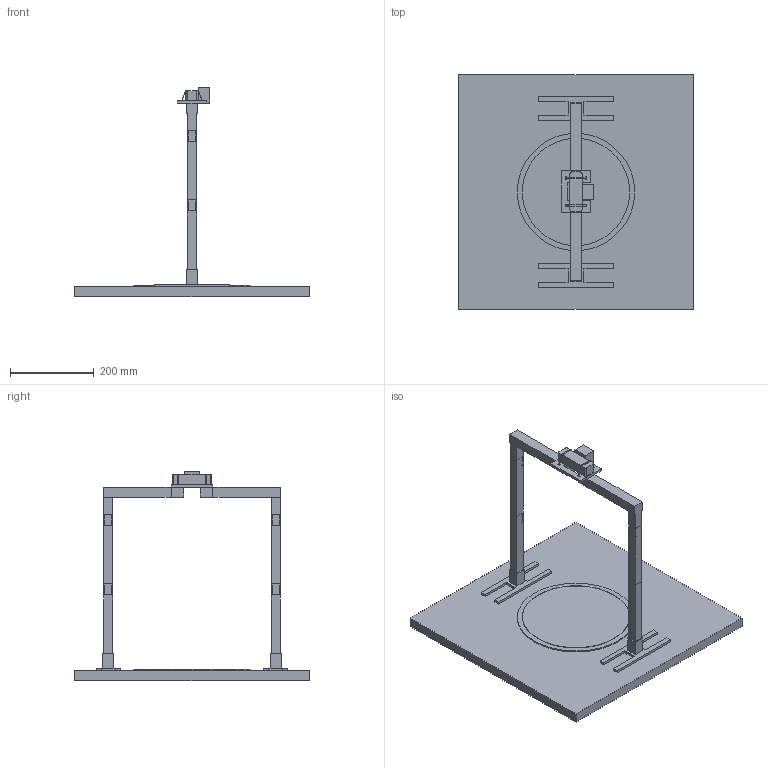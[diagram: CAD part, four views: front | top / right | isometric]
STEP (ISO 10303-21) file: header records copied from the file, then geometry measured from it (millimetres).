
FILE_DESCRIPTION(('Open CASCADE Model'),'2;1');
FILE_NAME('Open CASCADE Shape Model','2026-10-03T23:44:50',('Author'),( 'Open CASCADE'),'Open CASCADE STEP processor 7.8','Open CASCADE 7.8' ,'Unknown');
FILE_SCHEMA(('AUTOMOTIVE_DESIGN { 1 0 10303 214 1 1 1 1 }'));
Length unit declared in the file: millimetre
Products named in the file (17): C920s_modular_printed_demo_stand; left_foot; left_upright_1; left_upright_2; left_bridge; right_foot; right_upright_1; right_upright_2; right_bridge; camera_cradle; C920s_reference; camera_clip_reference; lens_reference; plastic_tie_-33; plastic_tie_33; table_reference; dish_reference
Assembly tree (16 placements, depth 2):
  C920s_modular_printed_demo_stand
    left_foot
    left_upright_1
    left_upright_2
    left_bridge
    right_foot
    right_upright_1
    right_upright_2
    right_bridge
    camera_cradle
    C920s_reference
    camera_clip_reference
    lens_reference
    plastic_tie_-33
    plastic_tie_33
    table_reference
    dish_reference
Bounding box: 560 x 560 x 500 mm (x, y, z)
Volume: 8328670.1 mm3; surface area: 1086467.9 mm2
Topology: 16 solids, 20 shells, 318 faces, 765 edges, 510 vertices
Faces by surface type: plane 311, cylinder 7
Full cylindrical faces by diameter (mm): 16 x1, 256 x1, 280 x1
Entity records: 19455 total; most frequent: CARTESIAN_POINT 3164, DIRECTION 2975, LINE 2267, VECTOR 2267, ORIENTED_EDGE 1530, PCURVE 1530, DEFINITIONAL_REPRESENTATION 1530, EDGE_CURVE 765
